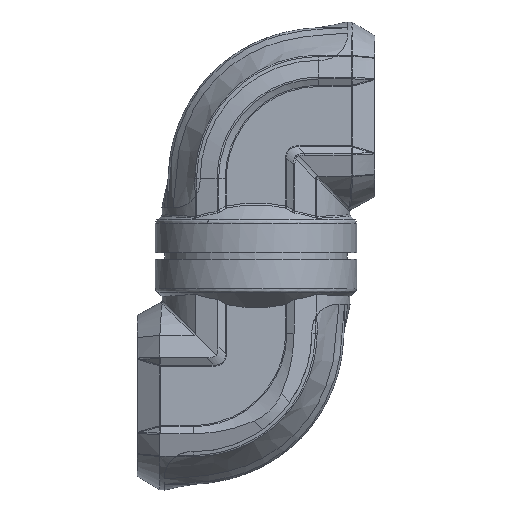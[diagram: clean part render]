
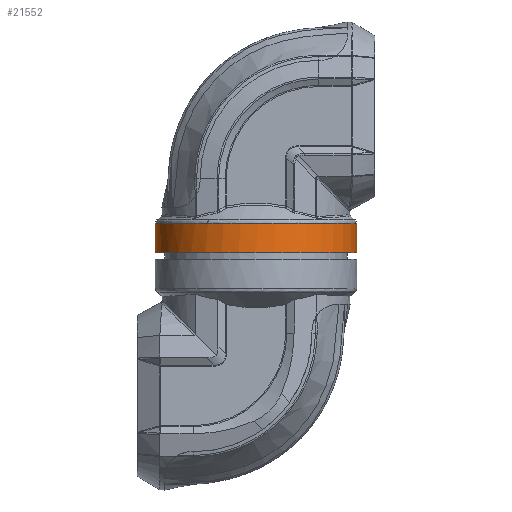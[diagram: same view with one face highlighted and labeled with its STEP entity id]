
A CAD part, front view. The second image highlights one B-rep face of the part: STEP entity #21552.
In plain terms, the highlighted cylindrical face has radius 45 mm (diameter 90 mm), a partial arc.
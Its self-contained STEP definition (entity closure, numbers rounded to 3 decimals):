
#447 = CARTESIAN_POINT ( 'NONE',  ( 665., 0., -47.911 ) ) ;
#1980 = CYLINDRICAL_SURFACE ( 'NONE', #27450, 45. ) ;
#2507 = CARTESIAN_POINT ( 'NONE',  ( 665., 0., -47. ) ) ;
#2697 = LINE ( 'NONE', #47290, #14170 ) ;
#2814 = CARTESIAN_POINT ( 'NONE',  ( 710., 0., -47.911 ) ) ;
#4774 = DIRECTION ( 'NONE',  ( 0.479, 0.878, 0. ) ) ;
#4961 = ORIENTED_EDGE ( 'NONE', *, *, #25019, .F. ) ;
#7015 = DIRECTION ( 'NONE',  ( 0., 0., -1. ) ) ;
#8586 = VERTEX_POINT ( 'NONE', #24231 ) ;
#9624 = DIRECTION ( 'NONE',  ( 0., 0., 1. ) ) ;
#11489 = DIRECTION ( 'NONE',  ( 0., 0., 1. ) ) ;
#13014 = CARTESIAN_POINT ( 'NONE',  ( 710., 0., -47. ) ) ;
#14170 = VECTOR ( 'NONE', #51610, 1000. ) ;
#15347 = VERTEX_POINT ( 'NONE', #2814 ) ;
#16354 = ORIENTED_EDGE ( 'NONE', *, *, #46766, .F. ) ;
#17379 = DIRECTION ( 'NONE',  ( 0., 0., -1. ) ) ;
#20165 = EDGE_LOOP ( 'NONE', ( #16354, #4961, #38386, #26305, #40823 ) ) ;
#20832 = EDGE_CURVE ( 'NONE', #21369, #39901, #2697, .T. ) ;
#21369 = VERTEX_POINT ( 'NONE', #44004 ) ;
#21552 = ADVANCED_FACE ( 'NONE', ( #47843 ), #1980, .T. ) ;
#21681 = VERTEX_POINT ( 'NONE', #42106 ) ;
#22033 = CIRCLE ( 'NONE', #31887, 45. ) ;
#22037 = EDGE_CURVE ( 'NONE', #39901, #21681, #31050, .T. ) ;
#24231 = CARTESIAN_POINT ( 'NONE',  ( 643.426, -39.491, -47.911 ) ) ;
#24930 = CIRCLE ( 'NONE', #54851, 45. ) ;
#25019 = EDGE_CURVE ( 'NONE', #8586, #15347, #24930, .T. ) ;
#26305 = ORIENTED_EDGE ( 'NONE', *, *, #20832, .T. ) ;
#27450 = AXIS2_PLACEMENT_3D ( 'NONE', #2507, #7015, #32910 ) ;
#30617 = EDGE_CURVE ( 'NONE', #21369, #8586, #22033, .T. ) ;
#30689 = DIRECTION ( 'NONE',  ( 0., 0., 1. ) ) ;
#31050 = CIRCLE ( 'NONE', #38959, 45. ) ;
#31887 = AXIS2_PLACEMENT_3D ( 'NONE', #37344, #11489, #41654 ) ;
#32910 = DIRECTION ( 'NONE',  ( -1., 0., 0. ) ) ;
#33377 = LINE ( 'NONE', #13014, #43432 ) ;
#35497 = CARTESIAN_POINT ( 'NONE',  ( 665., 0., -61. ) ) ;
#37344 = CARTESIAN_POINT ( 'NONE',  ( 665., 0., -47.911 ) ) ;
#38386 = ORIENTED_EDGE ( 'NONE', *, *, #30617, .F. ) ;
#38959 = AXIS2_PLACEMENT_3D ( 'NONE', #35497, #9624, #39795 ) ;
#39795 = DIRECTION ( 'NONE',  ( -1., 0., 0. ) ) ;
#39901 = VERTEX_POINT ( 'NONE', #52013 ) ;
#40823 = ORIENTED_EDGE ( 'NONE', *, *, #22037, .T. ) ;
#41654 = DIRECTION ( 'NONE',  ( 0.479, 0.878, 0. ) ) ;
#42106 = CARTESIAN_POINT ( 'NONE',  ( 710., 0., -61. ) ) ;
#43432 = VECTOR ( 'NONE', #17379, 1000. ) ;
#44004 = CARTESIAN_POINT ( 'NONE',  ( 620., 0., -47.911 ) ) ;
#46766 = EDGE_CURVE ( 'NONE', #15347, #21681, #33377, .T. ) ;
#47290 = CARTESIAN_POINT ( 'NONE',  ( 620., 0., -47. ) ) ;
#47843 = FACE_OUTER_BOUND ( 'NONE', #20165, .T. ) ;
#51610 = DIRECTION ( 'NONE',  ( 0., 0., -1. ) ) ;
#52013 = CARTESIAN_POINT ( 'NONE',  ( 620., 0., -61. ) ) ;
#54851 = AXIS2_PLACEMENT_3D ( 'NONE', #447, #30689, #4774 ) ;
